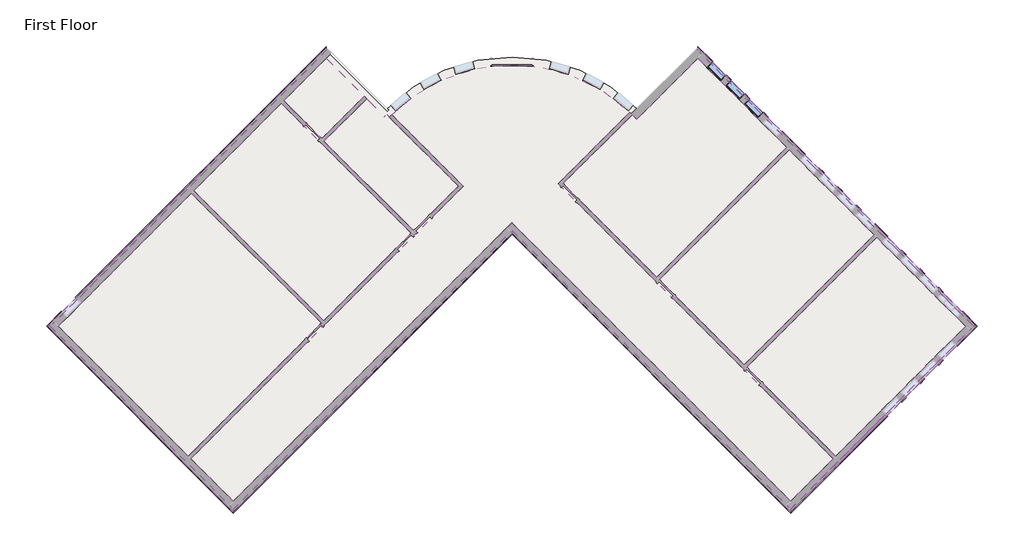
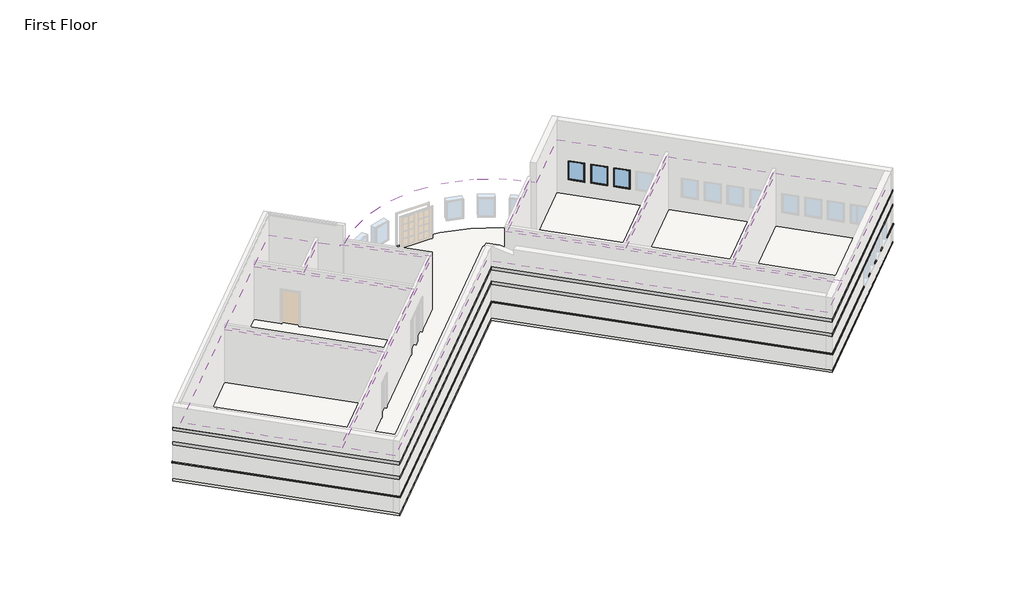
# One storey, part 3 of 3: 18 proxies, 8 coverings, 3 windows, 1 slab.
"""IFC4 building model written with IfcOpenShell, lengths in millimetres."""

from ifc_helpers import new_model, si_unit, point, frame, frame_2d, origin, place, context, project, spatial, polyline, circle_curve, trimmed, segment, composite_curve, outline, extrude, faceted_brep, transform, mapped, element, save
from components import window_15c49d37

model = new_model("IFC4")

# Units and contexts
model_context = context("Model", 3, world=origin())
ifc_project = project(units=[si_unit("LENGTHUNIT", "METRE", prefix="MILLI")], contexts=[model_context])

# Site, building, storey
site = spatial("IfcSite", under=ifc_project)
building = spatial("IfcBuilding", under=site)
storey = spatial("IfcBuildingStorey", under=building, Name="First Floor", Elevation=0.0)

# Proxies
placement = place(None, origin())
element("IfcBuildingElementProxy", 1, Name="Wall Sweeps", at=placement, inside=storey, context=model_context, shape_type="Brep", body=[
    faceted_brep([(17381.0808171, -1390.1662438, 1085.85), (17446.187674, -1325.0593869, 1085.85), (17470.8833783, -1300.3636826, 1041.4), (17470.8833783, -1300.3636826, 1016.0), (17446.187674, -1325.0593869, 1016.0), (17381.0808171, -1390.1662438, 1016.0), (17979.3903812, -1988.4758079, 1085.85), (17979.3903812, -1988.4758079, 1016.0), (18158.9955036, -1988.4758079, 1016.0), (18158.9955036, -1988.4758079, 1041.4), (18109.604095, -1988.4758079, 1085.85)], [[[0, 1, 2, 3, 4, 5]], [[6, 7, 8, 9, 10]], [[1, 0, 6, 10]], [[2, 1, 10, 9]], [[3, 2, 9, 8]], [[5, 4, 3, 8, 7]], [[0, 5, 7, 6]]]),
    faceted_brep([(16269.7741222, -278.8595488, 1085.85), (16334.880979, -213.7526919, 1085.85), (16359.5766834, -189.0569876, 1041.4), (16359.5766834, -189.0569876, 1016.0), (16334.880979, -213.7526919, 1016.0), (16269.7741222, -278.8595488, 1016.0), (16485.3002691, -494.3856957, 1085.85), (16485.3002691, -494.3856957, 1016.0), (16550.4071259, -429.2788388, 1016.0), (16575.1028303, -404.5831345, 1016.0), (16575.1028303, -404.5831345, 1041.4), (16550.4071259, -429.2788388, 1085.85)], [[[0, 1, 2, 3, 4, 5]], [[6, 7, 8, 9, 10, 11]], [[1, 0, 6, 11]], [[2, 1, 11, 10]], [[3, 2, 10, 9]], [[5, 4, 3, 9, 8, 7]], [[0, 5, 7, 6]]]),
    faceted_brep([(15407.6695345, 583.2450388, 1085.85), (15472.7763914, 648.3518957, 1085.85), (15497.4720957, 673.0476, 1041.4), (15497.4720957, 673.0476, 1016.0), (15472.7763914, 648.3518957, 1016.0), (15407.6695345, 583.2450388, 1016.0), (15623.1956814, 367.7188919, 1085.85), (15623.1956814, 367.7188919, 1016.0), (15688.3025383, 432.8257488, 1016.0), (15712.9982426, 457.5214531, 1016.0), (15712.9982426, 457.5214531, 1041.4), (15688.3025383, 432.8257488, 1085.85)], [[[0, 1, 2, 3, 4, 5]], [[6, 7, 8, 9, 10, 11]], [[1, 0, 6, 11]], [[2, 1, 11, 10]], [[3, 2, 10, 9]], [[5, 4, 3, 9, 8, 7]], [[0, 5, 7, 6]]]),
    faceted_brep([(14545.5649469, 1445.3496264, 1085.85), (14610.6718038, 1510.4564833, 1085.85), (14635.3675081, 1535.1521876, 1041.4), (14635.3675081, 1535.1521876, 1016.0), (14610.6718038, 1510.4564833, 1016.0), (14545.5649469, 1445.3496264, 1016.0), (14761.0910938, 1229.8234795, 1085.85), (14761.0910938, 1229.8234795, 1016.0), (14826.1979507, 1294.9303364, 1016.0), (14850.893655, 1319.6260407, 1016.0), (14850.893655, 1319.6260407, 1041.4), (14826.1979507, 1294.9303364, 1085.85)], [[[0, 1, 2, 3, 4, 5]], [[6, 7, 8, 9, 10, 11]], [[1, 0, 6, 11]], [[2, 1, 11, 10]], [[3, 2, 10, 9]], [[5, 4, 3, 9, 8, 7]], [[0, 5, 7, 6]]]),
    faceted_brep([(13319.7599864, 2671.154587, 1085.85), (13384.8668433, 2736.2614438, 1085.85), (13409.5625476, 2760.9571482, 1041.4), (13409.5625476, 2760.9571482, 1016.0), (13384.8668433, 2736.2614438, 1016.0), (13319.7599864, 2671.154587, 1016.0), (13898.9865062, 2091.9280671, 1085.85), (13898.9865062, 2091.9280671, 1016.0), (13964.0933631, 2157.034924, 1016.0), (13988.7890674, 2181.7306284, 1016.0), (13988.7890674, 2181.7306284, 1041.4), (13964.0933631, 2157.034924, 1085.85)], [[[0, 1, 2, 3, 4, 5]], [[6, 7, 8, 9, 10, 11]], [[1, 0, 6, 11]], [[2, 1, 11, 10]], [[3, 2, 10, 9]], [[5, 4, 3, 9, 8, 7]], [[0, 5, 7, 6]]]),
    faceted_brep([(12457.6553988, 3533.2591746, 1085.85), (12522.7622556, 3598.3660315, 1085.85), (12547.45796, 3623.0617358, 1041.4), (12547.45796, 3623.0617358, 1016.0), (12522.7622556, 3598.3660315, 1016.0), (12457.6553988, 3533.2591746, 1016.0), (12673.1815457, 3317.7330277, 1085.85), (12673.1815457, 3317.7330277, 1016.0), (12738.2884025, 3382.8398846, 1016.0), (12762.9841069, 3407.5355889, 1016.0), (12762.9841069, 3407.5355889, 1041.4), (12738.2884025, 3382.8398846, 1085.85)], [[[0, 1, 2, 3, 4, 5]], [[6, 7, 8, 9, 10, 11]], [[1, 0, 6, 11]], [[2, 1, 11, 10]], [[3, 2, 10, 9]], [[5, 4, 3, 9, 8, 7]], [[0, 5, 7, 6]]]),
    faceted_brep([(8147.1324606, 7843.7821127, 1085.85), (8212.2393175, 7908.8889696, 1085.85), (8236.9350219, 7933.5846739, 1041.4), (8236.9350219, 7933.5846739, 1016.0), (8212.2393175, 7908.8889696, 1016.0), (8147.1324606, 7843.7821127, 1016.0), (8362.6586076, 7628.2559658, 1085.85), (8362.6586076, 7628.2559658, 1016.0), (8427.7654644, 7693.3628227, 1016.0), (8452.4611688, 7718.058527, 1016.0), (8452.4611688, 7718.058527, 1041.4), (8427.7654644, 7693.3628227, 1085.85)], [[[0, 1, 2, 3, 4, 5]], [[6, 7, 8, 9, 10, 11]], [[1, 0, 6, 11]], [[2, 1, 11, 10]], [[3, 2, 10, 9]], [[5, 4, 3, 9, 8, 7]], [[0, 5, 7, 6]]]),
    faceted_brep([(9009.2370483, 6981.6775251, 1085.85), (9074.3439051, 7046.7843819, 1085.85), (9099.0396095, 7071.4800863, 1041.4), (9099.0396095, 7071.4800863, 1016.0), (9074.3439051, 7046.7843819, 1016.0), (9009.2370483, 6981.6775251, 1016.0), (10086.8677828, 5904.0467905, 1085.85), (10086.8677828, 5904.0467905, 1016.0), (10151.9746397, 5969.1536474, 1016.0), (10176.670344, 5993.8493518, 1016.0), (10176.670344, 5993.8493518, 1041.4), (10151.9746397, 5969.1536474, 1085.85)], [[[0, 1, 2, 3, 4, 5]], [[6, 7, 8, 9, 10, 11]], [[1, 0, 6, 11]], [[2, 1, 11, 10]], [[3, 2, 10, 9]], [[5, 4, 3, 9, 8, 7]], [[0, 5, 7, 6]]]),
    faceted_brep([(10733.4462235, 5257.4683498, 1085.85), (10798.5530804, 5322.5752067, 1085.85), (10823.2487847, 5347.270911, 1041.4), (10823.2487847, 5347.270911, 1016.0), (10798.5530804, 5322.5752067, 1016.0), (10733.4462235, 5257.4683498, 1016.0), (10948.9723704, 5041.9422029, 1085.85), (10948.9723704, 5041.9422029, 1016.0), (11014.0792273, 5107.0490598, 1016.0), (11038.7749316, 5131.7447641, 1016.0), (11038.7749316, 5131.7447641, 1041.4), (11014.0792273, 5107.0490598, 1085.85)], [[[0, 1, 2, 3, 4, 5]], [[6, 7, 8, 9, 10, 11]], [[1, 0, 6, 11]], [[2, 1, 11, 10]], [[3, 2, 10, 9]], [[5, 4, 3, 9, 8, 7]], [[0, 5, 7, 6]]]),
    faceted_brep([(11595.5508111, 4395.3637622, 1085.85), (11660.657668, 4460.4706191, 1085.85), (11685.3533723, 4485.1663234, 1041.4), (11685.3533723, 4485.1663234, 1016.0), (11660.657668, 4460.4706191, 1016.0), (11595.5508111, 4395.3637622, 1016.0), (11811.076958, 4179.8376153, 1085.85), (11811.076958, 4179.8376153, 1016.0), (11876.1838149, 4244.9444722, 1016.0), (11900.8795193, 4269.6401765, 1016.0), (11900.8795193, 4269.6401765, 1041.4), (11876.1838149, 4244.9444722, 1085.85)], [[[0, 1, 2, 3, 4, 5]], [[6, 7, 8, 9, 10, 11]], [[1, 0, 6, 11]], [[2, 1, 11, 10]], [[3, 2, 10, 9]], [[5, 4, 3, 9, 8, 7]], [[0, 5, 7, 6]]]),
    faceted_brep([(5178.0352806, 10812.8792927, 1085.85), (5178.0352806, 10943.0930065, 1085.85), (5178.0352806, 10992.4844151, 1041.4), (5178.0352806, 10992.4844151, 1016.0), (5178.0352806, 10812.8792927, 1016.0), (5776.3448447, 10214.5697287, 1085.85), (5776.3448447, 10214.5697287, 1016.0), (5841.4517016, 10279.6765855, 1016.0), (5866.1474059, 10304.3722899, 1016.0), (5866.1474059, 10304.3722899, 1041.4), (5841.4517016, 10279.6765855, 1085.85), (5362.1305311, 10628.7840422, 1085.85), (5362.1305311, 10628.7840422, 1016.0)], [[[0, 1, 2, 3, 4]], [[5, 6, 7, 8, 9, 10]], [[1, 0, 11, 5, 10]], [[2, 1, 10, 9]], [[3, 2, 9, 8]], [[4, 3, 8, 7, 6, 12]], [[0, 4, 12, 6, 5, 11]]]),
    faceted_brep([(6422.9232854, 9567.9912879, 1085.85), (6488.0301423, 9633.0981448, 1085.85), (6512.7258466, 9657.7938491, 1041.4), (6512.7258466, 9657.7938491, 1016.0), (6488.0301423, 9633.0981448, 1016.0), (6422.9232854, 9567.9912879, 1016.0), (6638.4494323, 9352.465141, 1085.85), (6638.4494323, 9352.465141, 1016.0), (6703.5562892, 9417.5719979, 1016.0), (6728.2519935, 9442.2677022, 1016.0), (6728.2519935, 9442.2677022, 1041.4), (6703.5562892, 9417.5719979, 1085.85)], [[[0, 1, 2, 3, 4, 5]], [[6, 7, 8, 9, 10, 11]], [[1, 0, 6, 11]], [[2, 1, 11, 10]], [[3, 2, 10, 9]], [[5, 4, 3, 9, 8, 7]], [[0, 5, 7, 6]]]),
    faceted_brep([(7285.027873, 8705.8867003, 1085.85), (7350.1347299, 8770.9935572, 1085.85), (7374.8304342, 8795.6892615, 1041.4), (7374.8304342, 8795.6892615, 1016.0), (7350.1347299, 8770.9935572, 1016.0), (7285.027873, 8705.8867003, 1016.0), (7500.5540199, 8490.3605534, 1085.85), (7500.5540199, 8490.3605534, 1016.0), (7565.6608768, 8555.4674103, 1016.0), (7590.3565811, 8580.1631146, 1016.0), (7590.3565811, 8580.1631146, 1041.4), (7565.6608768, 8555.4674103, 1085.85)], [[[0, 1, 2, 3, 4, 5]], [[6, 7, 8, 9, 10, 11]], [[1, 0, 6, 11]], [[2, 1, 11, 10]], [[3, 2, 10, 9]], [[5, 4, 3, 9, 8, 7]], [[0, 5, 7, 6]]]),
])
element("IfcBuildingElementProxy", 2, Name="Wall Sweeps", at=placement, inside=storey, context=model_context, shape_type="Brep", body=[
    faceted_brep([(5178.0352806, 10943.0930065, 2336.8), (5178.0352806, 10943.0930065, 2133.6), (5178.0352806, 10812.8792927, 2133.6), (5178.0352806, 10812.8792927, 2336.8), (18109.604095, -1988.4758079, 2336.8), (17979.3903812, -1988.4758079, 2336.8), (17979.3903812, -1988.4758079, 2133.6), (18109.604095, -1988.4758079, 2133.6), (5427.237388, 10693.8908991, 2336.8), (17446.187674, -1325.0593869, 2133.6), (16550.4071259, -429.2788388, 2133.6), (16334.880979, -213.7526919, 2133.6), (15688.3025383, 432.8257488, 2133.6), (15472.7763914, 648.3518957, 2133.6), (14826.1979507, 1294.9303364, 2133.6), (14610.6718038, 1510.4564833, 2133.6), (13964.0933631, 2157.034924, 2133.6), (13384.8668433, 2736.2614438, 2133.6), (12738.2884025, 3382.8398846, 2133.6), (12522.7622556, 3598.3660315, 2133.6), (11876.1838149, 4244.9444722, 2133.6), (11660.657668, 4460.4706191, 2133.6), (11014.0792273, 5107.0490598, 2133.6), (10798.5530804, 5322.5752067, 2133.6), (10151.9746397, 5969.1536474, 2133.6), (9074.3439051, 7046.7843819, 2133.6), (8427.7654644, 7693.3628227, 2133.6), (8212.2393175, 7908.8889696, 2133.6), (7565.6608768, 8555.4674103, 2133.6), (7350.1347299, 8770.9935572, 2133.6), (6703.5562892, 9417.5719979, 2133.6), (6488.0301423, 9633.0981448, 2133.6), (5841.4517016, 10279.6765855, 2133.6), (5427.237388, 10693.8908991, 2133.6), (17381.0808171, -1390.1662438, 2133.6), (16485.3002691, -494.3856957, 2133.6), (16269.7741222, -278.8595488, 2133.6), (15623.1956814, 367.7188919, 2133.6), (15407.6695345, 583.2450388, 2133.6), (14761.0910938, 1229.8234795, 2133.6), (14545.5649469, 1445.3496264, 2133.6), (13898.9865062, 2091.9280671, 2133.6), (13319.7599864, 2671.154587, 2133.6), (12673.1815457, 3317.7330277, 2133.6), (12457.6553988, 3533.2591746, 2133.6), (11811.076958, 4179.8376153, 2133.6), (11595.5508111, 4395.3637622, 2133.6), (10948.9723704, 5041.9422029, 2133.6), (10733.4462235, 5257.4683498, 2133.6), (10086.8677828, 5904.0467905, 2133.6), (9009.2370483, 6981.6775251, 2133.6), (8362.6586076, 7628.2559658, 2133.6), (8147.1324606, 7843.7821127, 2133.6), (7500.5540199, 8490.3605534, 2133.6), (7285.027873, 8705.8867003, 2133.6), (6638.4494323, 9352.465141, 2133.6), (6422.9232854, 9567.9912879, 2133.6), (5776.3448447, 10214.5697287, 2133.6), (5362.1305311, 10628.7840422, 2133.6), (5362.1305311, 10628.7840422, 2336.8)], [[[0, 1, 2, 3]], [[4, 5, 6, 7]], [[1, 0, 8, 4, 7, 9, 10, 11, 12, 13, 14, 15, 16, 17, 18, 19, 20, 21, 22, 23, 24, 25, 26, 27, 28, 29, 30, 31, 32, 33]], [[2, 1, 33, 32, 31, 30, 29, 28, 27, 26, 25, 24, 23, 22, 21, 20, 19, 18, 17, 16, 15, 14, 13, 12, 11, 10, 9, 7, 6, 34, 35, 36, 37, 38, 39, 40, 41, 42, 43, 44, 45, 46, 47, 48, 49, 50, 51, 52, 53, 54, 55, 56, 57, 58]], [[3, 2, 58, 57, 56, 55, 54, 53, 52, 51, 50, 49, 48, 47, 46, 45, 44, 43, 42, 41, 40, 39, 38, 37, 36, 35, 34, 6, 5, 59]], [[0, 3, 59, 5, 4, 8]]]),
])
element("IfcBuildingElementProxy", 3, Name="Wall Sweeps", at=placement, inside=storey, context=model_context, shape_type="Brep", body=[
    faceted_brep([(5178.0352806, 10943.0930065, 3251.2), (5178.0352806, 10943.0930065, 3048.0), (5178.0352806, 10812.8792927, 3048.0), (5178.0352806, 10812.8792927, 3251.2), (18109.604095, -1988.4758079, 3251.2), (17979.3903812, -1988.4758079, 3251.2), (17979.3903812, -1988.4758079, 3048.0), (18109.604095, -1988.4758079, 3048.0), (5427.237388, 10693.8908991, 3251.2), (5427.237388, 10693.8908991, 3048.0), (5362.1305311, 10628.7840422, 3048.0), (5362.1305311, 10628.7840422, 3251.2)], [[[0, 1, 2, 3]], [[4, 5, 6, 7]], [[1, 0, 8, 4, 7, 9]], [[2, 1, 9, 7, 6, 10]], [[3, 2, 10, 6, 5, 11]], [[0, 3, 11, 5, 4, 8]]]),
])
element("IfcBuildingElementProxy", 4, Name="Wall Sweeps", at=placement, inside=storey, context=model_context, shape_type="Brep", body=[
    faceted_brep([(13898.9865062, -6068.8796829, 1085.85), (13964.0933631, -6133.9865398, 1085.85), (13988.7890674, -6158.6822441, 1041.4), (13988.7890674, -6158.6822441, 1016.0), (13964.0933631, -6133.9865398, 1016.0), (13898.9865062, -6068.8796829, 1016.0), (9488.5582187, -10479.3079703, 1085.85), (9488.5582187, -10479.3079703, 1016.0), (9488.5582187, -10658.9130928, 1016.0), (9488.5582187, -10658.9130928, 1041.4), (9488.5582187, -10609.5216841, 1085.85)], [[[0, 1, 2, 3, 4, 5]], [[6, 7, 8, 9, 10]], [[1, 0, 6, 10]], [[2, 1, 10, 9]], [[3, 2, 9, 8]], [[5, 4, 3, 8, 7]], [[0, 5, 7, 6]]]),
    faceted_brep([(17979.3903812, -1988.4758079, 1085.85), (18109.604095, -1988.4758079, 1085.85), (18158.9955036, -1988.4758079, 1041.4), (18158.9955036, -1988.4758079, 1016.0), (17979.3903812, -1988.4758079, 1016.0), (17131.8787098, -2835.9874793, 1085.85), (17131.8787098, -2835.9874793, 1016.0), (17196.9855667, -2901.0943362, 1016.0), (17221.681271, -2925.7900405, 1016.0), (17221.681271, -2925.7900405, 1041.4), (17196.9855667, -2901.0943362, 1085.85), (17795.2951307, -2172.5710583, 1085.85), (17795.2951307, -2172.5710583, 1016.0)], [[[0, 1, 2, 3, 4]], [[5, 6, 7, 8, 9, 10]], [[1, 0, 11, 5, 10]], [[2, 1, 10, 9]], [[3, 2, 9, 8]], [[4, 3, 8, 7, 6, 12]], [[0, 4, 12, 6, 5, 11]]]),
    faceted_brep([(16485.3002691, -3482.56592, 1085.85), (16550.4071259, -3547.6727769, 1085.85), (16575.1028303, -3572.3684812, 1041.4), (16575.1028303, -3572.3684812, 1016.0), (16550.4071259, -3547.6727769, 1016.0), (16485.3002691, -3482.56592, 1016.0), (16269.7741222, -3698.0920669, 1085.85), (16269.7741222, -3698.0920669, 1016.0), (16334.880979, -3763.1989238, 1016.0), (16359.5766834, -3787.8946281, 1016.0), (16359.5766834, -3787.8946281, 1041.4), (16334.880979, -3763.1989238, 1085.85)], [[[0, 1, 2, 3, 4, 5]], [[6, 7, 8, 9, 10, 11]], [[1, 0, 6, 11]], [[2, 1, 11, 10]], [[3, 2, 10, 9]], [[5, 4, 3, 9, 8, 7]], [[0, 5, 7, 6]]]),
    faceted_brep([(15623.1956814, -4344.6705076, 1085.85), (15688.3025383, -4409.7773645, 1085.85), (15712.9982426, -4434.4730688, 1041.4), (15712.9982426, -4434.4730688, 1016.0), (15688.3025383, -4409.7773645, 1016.0), (15623.1956814, -4344.6705076, 1016.0), (15407.6695345, -4560.1966545, 1085.85), (15407.6695345, -4560.1966545, 1016.0), (15472.7763914, -4625.3035114, 1016.0), (15497.4720957, -4649.9992157, 1016.0), (15497.4720957, -4649.9992157, 1041.4), (15472.7763914, -4625.3035114, 1085.85)], [[[0, 1, 2, 3, 4, 5]], [[6, 7, 8, 9, 10, 11]], [[1, 0, 6, 11]], [[2, 1, 11, 10]], [[3, 2, 10, 9]], [[5, 4, 3, 9, 8, 7]], [[0, 5, 7, 6]]]),
    faceted_brep([(14761.0910938, -5206.7750953, 1085.85), (14826.1979507, -5271.8819521, 1085.85), (14850.893655, -5296.5776565, 1041.4), (14850.893655, -5296.5776565, 1016.0), (14826.1979507, -5271.8819521, 1016.0), (14761.0910938, -5206.7750953, 1016.0), (14545.5649469, -5422.3012422, 1085.85), (14545.5649469, -5422.3012422, 1016.0), (14610.6718038, -5487.408099, 1016.0), (14635.3675081, -5512.1038034, 1016.0), (14635.3675081, -5512.1038034, 1041.4), (14610.6718038, -5487.408099, 1085.85)], [[[0, 1, 2, 3, 4, 5]], [[6, 7, 8, 9, 10, 11]], [[1, 0, 6, 11]], [[2, 1, 11, 10]], [[3, 2, 10, 9]], [[5, 4, 3, 9, 8, 7]], [[0, 5, 7, 6]]]),
])
element("IfcBuildingElementProxy", 5, Name="Wall Sweeps", at=placement, inside=storey, context=model_context, shape_type="Brep", body=[
    faceted_brep([(18109.604095, -1988.4758079, 2336.8), (18109.604095, -1988.4758079, 2133.6), (17979.3903812, -1988.4758079, 2133.6), (17979.3903812, -1988.4758079, 2336.8), (9488.5582187, -10609.5216841, 2336.8), (9488.5582187, -10479.3079703, 2336.8), (9488.5582187, -10479.3079703, 2133.6), (9488.5582187, -10609.5216841, 2133.6), (17860.4019876, -2237.6779152, 2336.8), (13964.0933631, -6133.9865398, 2133.6), (14610.6718038, -5487.408099, 2133.6), (14826.1979507, -5271.8819521, 2133.6), (15472.7763914, -4625.3035114, 2133.6), (15688.3025383, -4409.7773645, 2133.6), (16334.880979, -3763.1989238, 2133.6), (16550.4071259, -3547.6727769, 2133.6), (17196.9855667, -2901.0943362, 2133.6), (17860.4019876, -2237.6779152, 2133.6), (13898.9865062, -6068.8796829, 2133.6), (14545.5649469, -5422.3012422, 2133.6), (14761.0910938, -5206.7750953, 2133.6), (15407.6695345, -4560.1966545, 2133.6), (15623.1956814, -4344.6705076, 2133.6), (16269.7741222, -3698.0920669, 2133.6), (16485.3002691, -3482.56592, 2133.6), (17131.8787098, -2835.9874793, 2133.6), (17795.2951307, -2172.5710583, 2133.6), (17795.2951307, -2172.5710583, 2336.8)], [[[0, 1, 2, 3]], [[4, 5, 6, 7]], [[1, 0, 8, 4, 7, 9, 10, 11, 12, 13, 14, 15, 16, 17]], [[2, 1, 17, 16, 15, 14, 13, 12, 11, 10, 9, 7, 6, 18, 19, 20, 21, 22, 23, 24, 25, 26]], [[3, 2, 26, 25, 24, 23, 22, 21, 20, 19, 18, 6, 5, 27]], [[0, 3, 27, 5, 4, 8]]]),
])
element("IfcBuildingElementProxy", 6, Name="Wall Sweeps", at=placement, inside=storey, context=model_context, shape_type="Brep", body=[
    faceted_brep([(18109.604095, -1988.4758079, 3251.2), (18109.604095, -1988.4758079, 3048.0), (17979.3903812, -1988.4758079, 3048.0), (17979.3903812, -1988.4758079, 3251.2), (9488.5582187, -10609.5216841, 3251.2), (9488.5582187, -10479.3079703, 3251.2), (9488.5582187, -10479.3079703, 3048.0), (9488.5582187, -10609.5216841, 3048.0), (17860.4019876, -2237.6779152, 3251.2), (17860.4019876, -2237.6779152, 3048.0), (17795.2951307, -2172.5710583, 3048.0), (17795.2951307, -2172.5710583, 3251.2)], [[[0, 1, 2, 3]], [[4, 5, 6, 7]], [[1, 0, 8, 4, 7, 9]], [[2, 1, 9, 7, 6, 10]], [[3, 2, 10, 6, 5, 11]], [[0, 3, 11, 5, 4, 8]]]),
])
element("IfcBuildingElementProxy", 7, Name="Wall Sweeps", at=placement, inside=storey, context=model_context, shape_type="Brep", body=[
    faceted_brep([(9488.5582187, -10479.3079703, 1085.85), (9488.5582187, -10609.5216841, 1085.85), (9488.5582187, -10658.9130928, 1041.4), (9488.5582187, -10658.9130928, 1016.0), (9488.5582187, -10479.3079703, 1016.0), (-3443.0105956, 2452.260844, 1085.85), (-3443.0105956, 2452.260844, 1016.0), (-3443.0105956, 2272.6557216, 1016.0), (-3443.0105956, 2272.6557216, 1041.4), (-3443.0105956, 2322.0471303, 1085.85), (9304.4629682, -10295.2127199, 1085.85), (9304.4629682, -10295.2127199, 1016.0)], [[[0, 1, 2, 3, 4]], [[5, 6, 7, 8, 9]], [[1, 0, 10, 5, 9]], [[2, 1, 9, 8]], [[3, 2, 8, 7]], [[4, 3, 7, 6, 11]], [[0, 4, 11, 6, 5, 10]]]),
])
element("IfcBuildingElementProxy", 8, Name="Wall Sweeps", at=placement, inside=storey, context=model_context, shape_type="Brep", body=[
    faceted_brep([(9488.5582187, -10609.5216841, 2336.8), (9488.5582187, -10609.5216841, 2133.6), (9488.5582187, -10479.3079703, 2133.6), (9488.5582187, -10479.3079703, 2336.8), (-3443.0105956, 2322.0471303, 2336.8), (-3443.0105956, 2452.260844, 2336.8), (-3443.0105956, 2452.260844, 2133.6), (-3443.0105956, 2322.0471303, 2133.6), (9239.3561114, -10360.3195767, 2336.8), (9239.3561114, -10360.3195767, 2133.6), (9304.4629682, -10295.2127199, 2133.6), (9304.4629682, -10295.2127199, 2336.8)], [[[0, 1, 2, 3]], [[4, 5, 6, 7]], [[1, 0, 8, 4, 7, 9]], [[2, 1, 9, 7, 6, 10]], [[3, 2, 10, 6, 5, 11]], [[0, 3, 11, 5, 4, 8]]]),
])
element("IfcBuildingElementProxy", 9, Name="Wall Sweeps", at=placement, inside=storey, context=model_context, shape_type="Brep", body=[
    faceted_brep([(9488.5582187, -10609.5216841, 3251.2), (9488.5582187, -10609.5216841, 3048.0), (9488.5582187, -10479.3079703, 3048.0), (9488.5582187, -10479.3079703, 3251.2), (-3443.0105956, 2322.0471303, 3251.2), (-3443.0105956, 2452.260844, 3251.2), (-3443.0105956, 2452.260844, 3048.0), (-3443.0105956, 2322.0471303, 3048.0), (9239.3561114, -10360.3195767, 3251.2), (9239.3561114, -10360.3195767, 3048.0), (9304.4629682, -10295.2127199, 3048.0), (9304.4629682, -10295.2127199, 3251.2)], [[[0, 1, 2, 3]], [[4, 5, 6, 7]], [[1, 0, 8, 4, 7, 9]], [[2, 1, 9, 7, 6, 10]], [[3, 2, 10, 6, 5, 11]], [[0, 3, 11, 5, 4, 8]]]),
])
element("IfcBuildingElementProxy", 10, Name="Wall Sweeps", at=placement, inside=storey, context=model_context, shape_type="Brep", body=[
    faceted_brep([(-3443.0105956, 2452.260844, 1085.85), (-3443.0105956, 2322.0471303, 1085.85), (-3443.0105956, 2272.6557216, 1041.4), (-3443.0105956, 2272.6557216, 1016.0), (-3443.0105956, 2452.260844, 1016.0), (-16374.5794099, -10479.3079703, 1085.85), (-16374.5794099, -10479.3079703, 1016.0), (-16374.5794099, -10658.9130928, 1016.0), (-16374.5794099, -10658.9130928, 1041.4), (-16374.5794099, -10609.5216841, 1085.85), (-3508.1174525, 2387.1539871, 1085.85), (-3508.1174525, 2387.1539871, 1016.0)], [[[0, 1, 2, 3, 4]], [[5, 6, 7, 8, 9]], [[1, 0, 10, 5, 9]], [[2, 1, 9, 8]], [[3, 2, 8, 7]], [[4, 3, 7, 6, 11]], [[0, 4, 11, 6, 5, 10]]]),
])
element("IfcBuildingElementProxy", 11, Name="Wall Sweeps", at=placement, inside=storey, context=model_context, shape_type="Brep", body=[
    faceted_brep([(-3443.0105956, 2322.0471303, 2336.8), (-3443.0105956, 2322.0471303, 2133.6), (-3443.0105956, 2452.260844, 2133.6), (-3443.0105956, 2452.260844, 2336.8), (-16374.5794099, -10609.5216841, 2336.8), (-16374.5794099, -10479.3079703, 2336.8), (-16374.5794099, -10479.3079703, 2133.6), (-16374.5794099, -10609.5216841, 2133.6), (-3508.1174525, 2387.1539871, 2133.6), (-3508.1174525, 2387.1539871, 2336.8)], [[[0, 1, 2, 3]], [[4, 5, 6, 7]], [[1, 0, 4, 7]], [[2, 1, 7, 6, 8]], [[3, 2, 8, 6, 5, 9]], [[0, 3, 9, 5, 4]]]),
])
element("IfcBuildingElementProxy", 12, Name="Wall Sweeps", at=placement, inside=storey, context=model_context, shape_type="Brep", body=[
    faceted_brep([(-3443.0105956, 2322.0471303, 3251.2), (-3443.0105956, 2322.0471303, 3048.0), (-3443.0105956, 2452.260844, 3048.0), (-3443.0105956, 2452.260844, 3251.2), (-16374.5794099, -10609.5216841, 3251.2), (-16374.5794099, -10479.3079703, 3251.2), (-16374.5794099, -10479.3079703, 3048.0), (-16374.5794099, -10609.5216841, 3048.0), (-3508.1174525, 2387.1539871, 3048.0), (-3508.1174525, 2387.1539871, 3251.2)], [[[0, 1, 2, 3]], [[4, 5, 6, 7]], [[1, 0, 4, 7]], [[2, 1, 7, 6, 8]], [[3, 2, 8, 6, 5, 9]], [[0, 3, 9, 5, 4]]]),
])
element("IfcBuildingElementProxy", 13, Name="Wall Sweeps", at=placement, inside=storey, context=model_context, shape_type="Brep", body=[
    faceted_brep([(-16374.5794099, -10479.3079703, 1085.85), (-16374.5794099, -10609.5216841, 1085.85), (-16374.5794099, -10658.9130928, 1041.4), (-16374.5794099, -10658.9130928, 1016.0), (-16374.5794099, -10479.3079703, 1016.0), (-24865.4115724, -1988.4758079, 1085.85), (-24865.4115724, -1988.4758079, 1016.0), (-25045.0166948, -1988.4758079, 1016.0), (-25045.0166948, -1988.4758079, 1041.4), (-24995.6252862, -1988.4758079, 1085.85), (-16558.6746604, -10295.2127199, 1085.85), (-16558.6746604, -10295.2127199, 1016.0)], [[[0, 1, 2, 3, 4]], [[5, 6, 7, 8, 9]], [[1, 0, 10, 5, 9]], [[2, 1, 9, 8]], [[3, 2, 8, 7]], [[4, 3, 7, 6, 11]], [[0, 4, 11, 6, 5, 10]]]),
])
element("IfcBuildingElementProxy", 14, Name="Wall Sweeps", at=placement, inside=storey, context=model_context, shape_type="Brep", body=[
    faceted_brep([(-16374.5794099, -10609.5216841, 2336.8), (-16374.5794099, -10609.5216841, 2133.6), (-16374.5794099, -10479.3079703, 2133.6), (-16374.5794099, -10479.3079703, 2336.8), (-24995.6252862, -1988.4758079, 2336.8), (-24865.4115724, -1988.4758079, 2336.8), (-24865.4115724, -1988.4758079, 2133.6), (-24995.6252862, -1988.4758079, 2133.6), (-16623.7815173, -10360.3195767, 2336.8), (-16623.7815173, -10360.3195767, 2133.6), (-16558.6746604, -10295.2127199, 2133.6), (-16558.6746604, -10295.2127199, 2336.8)], [[[0, 1, 2, 3]], [[4, 5, 6, 7]], [[1, 0, 8, 4, 7, 9]], [[2, 1, 9, 7, 6, 10]], [[3, 2, 10, 6, 5, 11]], [[0, 3, 11, 5, 4, 8]]]),
])
element("IfcBuildingElementProxy", 15, Name="Wall Sweeps", at=placement, inside=storey, context=model_context, shape_type="Brep", body=[
    faceted_brep([(-16374.5794099, -10609.5216841, 3251.2), (-16374.5794099, -10609.5216841, 3048.0), (-16374.5794099, -10479.3079703, 3048.0), (-16374.5794099, -10479.3079703, 3251.2), (-24995.6252862, -1988.4758079, 3251.2), (-24865.4115724, -1988.4758079, 3251.2), (-24865.4115724, -1988.4758079, 3048.0), (-24995.6252862, -1988.4758079, 3048.0), (-16623.7815173, -10360.3195767, 3251.2), (-16623.7815173, -10360.3195767, 3048.0), (-16558.6746604, -10295.2127199, 3048.0), (-16558.6746604, -10295.2127199, 3251.2)], [[[0, 1, 2, 3]], [[4, 5, 6, 7]], [[1, 0, 8, 4, 7, 9]], [[2, 1, 9, 7, 6, 10]], [[3, 2, 10, 6, 5, 11]], [[0, 3, 11, 5, 4, 8]]]),
])
element("IfcBuildingElementProxy", 16, Name="Wall Sweeps", at=placement, inside=storey, context=model_context, shape_type="Brep", body=[
    faceted_brep([(-23620.5235676, -743.5878031, 1085.85), (-23685.6304245, -678.4809462, 1085.85), (-23710.3261288, -653.7852419, 1041.4), (-23710.3261288, -653.7852419, 1016.0), (-23685.6304245, -678.4809462, 1016.0), (-23620.5235676, -743.5878031, 1016.0), (-12064.0564718, 10812.8792927, 1085.85), (-12064.0564718, 10812.8792927, 1016.0), (-12064.0564718, 10992.4844151, 1016.0), (-12064.0564718, 10992.4844151, 1041.4), (-12064.0564718, 10943.0930065, 1085.85)], [[[0, 1, 2, 3, 4, 5]], [[6, 7, 8, 9, 10]], [[1, 0, 6, 10]], [[2, 1, 10, 9]], [[3, 2, 9, 8]], [[5, 4, 3, 8, 7]], [[0, 5, 7, 6]]]),
    faceted_brep([(-24865.4115724, -1988.4758079, 1085.85), (-24995.6252862, -1988.4758079, 1085.85), (-25045.0166948, -1988.4758079, 1041.4), (-25045.0166948, -1988.4758079, 1016.0), (-24865.4115724, -1988.4758079, 1016.0), (-24267.1020084, -1390.1662438, 1085.85), (-24267.1020084, -1390.1662438, 1016.0), (-24332.2088652, -1325.0593869, 1016.0), (-24356.9045696, -1300.3636826, 1016.0), (-24356.9045696, -1300.3636826, 1041.4), (-24332.2088652, -1325.0593869, 1085.85), (-24681.3163219, -1804.3805574, 1085.85), (-24681.3163219, -1804.3805574, 1016.0)], [[[0, 1, 2, 3, 4]], [[5, 6, 7, 8, 9, 10]], [[1, 0, 11, 5, 10]], [[2, 1, 10, 9]], [[3, 2, 9, 8]], [[4, 3, 8, 7, 6, 12]], [[0, 4, 12, 6, 5, 11]]]),
])
element("IfcBuildingElementProxy", 17, Name="Wall Sweeps", at=placement, inside=storey, context=model_context, shape_type="Brep", body=[
    faceted_brep([(-24995.6252862, -1988.4758079, 2336.8), (-24995.6252862, -1988.4758079, 2133.6), (-24865.4115724, -1988.4758079, 2133.6), (-24865.4115724, -1988.4758079, 2336.8), (-12064.0564718, 10943.0930065, 2336.8), (-12064.0564718, 10812.8792927, 2336.8), (-12064.0564718, 10812.8792927, 2133.6), (-12064.0564718, 10943.0930065, 2133.6), (-24746.4231788, -1739.2737005, 2336.8), (-23685.6304245, -678.4809462, 2133.6), (-24332.2088652, -1325.0593869, 2133.6), (-24746.4231788, -1739.2737005, 2133.6), (-23620.5235676, -743.5878031, 2133.6), (-24267.1020084, -1390.1662438, 2133.6), (-24681.3163219, -1804.3805574, 2133.6), (-24681.3163219, -1804.3805574, 2336.8)], [[[0, 1, 2, 3]], [[4, 5, 6, 7]], [[1, 0, 8, 4, 7, 9, 10, 11]], [[2, 1, 11, 10, 9, 7, 6, 12, 13, 14]], [[3, 2, 14, 13, 12, 6, 5, 15]], [[0, 3, 15, 5, 4, 8]]]),
])
element("IfcBuildingElementProxy", 18, Name="Wall Sweeps", at=placement, inside=storey, context=model_context, shape_type="Brep", body=[
    faceted_brep([(-24995.6252862, -1988.4758079, 3251.2), (-24995.6252862, -1988.4758079, 3048.0), (-24865.4115724, -1988.4758079, 3048.0), (-24865.4115724, -1988.4758079, 3251.2), (-12064.0564718, 10943.0930065, 3251.2), (-12064.0564718, 10812.8792927, 3251.2), (-12064.0564718, 10812.8792927, 3048.0), (-12064.0564718, 10943.0930065, 3048.0), (-24746.4231788, -1739.2737005, 3251.2), (-24746.4231788, -1739.2737005, 3048.0), (-24681.3163219, -1804.3805574, 3048.0), (-24681.3163219, -1804.3805574, 3251.2)], [[[0, 1, 2, 3]], [[4, 5, 6, 7]], [[1, 0, 8, 4, 7, 9]], [[2, 1, 9, 7, 6, 10]], [[3, 2, 10, 6, 5, 11]], [[0, 3, 11, 5, 4, 8]]]),
])

# Coverings
element("IfcCovering", 19, ObjectType="2' x 2' ACT System", at=placement, inside=storey, context=model_context, shape_type="SweptSolid", body=[
    extrude(outline(polyline([(-12281.8276828, -1847.036774), (-18460.2438941, -8025.4529853), (-24497.2210715, -1988.4758079), (-18318.8048602, 4189.9404034), (-12281.8276828, -1847.036774)])), frame((0.0, 0.0, 3352.8), z_axis=(0.0, 0.0, 1.0), x_axis=(1.0, 0.0, 0.0)), (0.0, 0.0, 1.0), 57.15),
])
element("IfcCovering", 20, ObjectType="2' x 2' ACT System", at=placement, inside=storey, context=model_context, shape_type="SweptSolid", body=[
    extrude(outline(polyline([(-18208.7967227, 4299.9485409), (-14149.720956, 8359.0243076), (-8112.7437786, 2322.0471303), (-12171.8195453, -1737.0286365), (-18208.7967227, 4299.9485409)])), frame((0.0, 0.0, 3352.8), z_axis=(0.0, 0.0, 1.0), x_axis=(1.0, 0.0, 0.0)), (0.0, 0.0, 1.0), 57.15),
])
element("IfcCovering", 21, ObjectType="2' x 2' ACT System", at=placement, inside=storey, context=model_context, shape_type="SweptSolid", body=[
    extrude(outline(polyline([(-14039.7128185, 8469.0324451), (-12064.0564718, 10444.6887918), (-10303.9262721, 8684.558592), (-12279.5826187, 6708.9022454), (-14039.7128185, 8469.0324451)])), frame((0.0, 0.0, 3352.8), z_axis=(0.0, 0.0, 1.0), x_axis=(1.0, 0.0, 0.0)), (0.0, 0.0, 1.0), 57.15),
])
element("IfcCovering", 22, ObjectType="2' x 2' ACT System", at=placement, inside=storey, context=model_context, shape_type="SweptSolid", body=[
    extrude(outline(polyline([(-10193.9181346, 8574.5504545), (-9361.2454813, 7741.8778012), (-9257.9725359, 7845.1507466), (-5923.8063491, 4510.9845598), (-8002.7356411, 2432.0552677), (-12169.5744813, 6598.8941079), (-10193.9181346, 8574.5504545)])), frame((0.0, 0.0, 3352.8), z_axis=(0.0, 0.0, 1.0), x_axis=(1.0, 0.0, 0.0)), (0.0, 0.0, 1.0), 57.15),
])
element("IfcCovering", 23, ObjectType="2' x 2' ACT System", at=placement, inside=storey, context=model_context, shape_type="SweptSolid", body=[
    extrude(outline(composite_curve([segment(polyline([(-1297.8519147, 4626.6053573), (11464.2145654, -8135.4611227), (9488.5582187, -10111.1174694), (-3443.0105956, 2820.451345), (-16374.5794099, -10111.1174694), (-18350.2357566, -8135.4611227), (-5703.7900741, 4510.9845598), (-9024.2284636, 7831.4229492)]), True, "CONTINUOUS"), segment(trimmed(circle_curve(frame_2d((-3443.0105956, 2272.6557216)), 7877.175), [point((-9024.2284636, 7831.4229492))], [point((2021.619387, 7946.076659))], False, "CARTESIAN"), True, "CONTINUOUS"), segment(polyline([(2021.619387, 7946.076659), (-1297.8519147, 4626.6053573)]), True, "CONTINUOUS")], self_intersect=False)), frame((0.0, 0.0, 3352.8), z_axis=(0.0, 0.0, 1.0), x_axis=(1.0, 0.0, 0.0)), (0.0, 0.0, 1.0), 57.15),
])
element("IfcCovering", 24, ObjectType="2' x 2' ACT System", at=placement, inside=storey, context=model_context, shape_type="SweptSolid", body=[
    extrude(outline(composite_curve([segment(polyline([(2346.973313, 7613.6268242), (5178.0352806, 10444.6887918), (9308.9530963, 6313.7709761), (3271.9759189, 276.7937987), (-1077.8356397, 4626.6053573), (2132.6030957, 7837.0440928)]), True, "CONTINUOUS"), segment(trimmed(circle_curve(frame_2d((-3443.0105956, 2272.6557216)), 7877.175), [point((2132.6030957, 7837.0440928))], [point((2346.973313, 7613.6268242))], False, "CARTESIAN"), True, "CONTINUOUS")], self_intersect=False)), frame((0.0, 0.0, 3352.8), z_axis=(0.0, 0.0, 1.0), x_axis=(1.0, 0.0, 0.0)), (0.0, 0.0, 1.0), 57.15),
])
element("IfcCovering", 25, ObjectType="2' x 2' ACT System", at=placement, inside=storey, context=model_context, shape_type="SweptSolid", body=[
    extrude(outline(polyline([(3381.9840564, 166.7856612), (9418.9612338, 6203.7628386), (13370.2739271, 2252.4501453), (7333.2967497, -3784.5270321), (3381.9840564, 166.7856612)])), frame((0.0, 0.0, 3352.8), z_axis=(0.0, 0.0, 1.0), x_axis=(1.0, 0.0, 0.0)), (0.0, 0.0, 1.0), 57.15),
])
element("IfcCovering", 26, ObjectType="2' x 2' ACT System", at=placement, inside=storey, context=model_context, shape_type="SweptSolid", body=[
    extrude(outline(polyline([(7443.3048872, -3894.5351696), (13480.2820645, 2142.4420078), (17611.1998802, -1988.4758079), (11574.2227029, -8025.4529853), (7443.3048872, -3894.5351696)])), frame((0.0, 0.0, 3352.8), z_axis=(0.0, 0.0, 1.0), x_axis=(1.0, 0.0, 0.0)), (0.0, 0.0, 1.0), 57.15),
])

# Slab
element("IfcSlab", 27, ObjectType="LW Concrete on Metal Deck", at=placement, inside=storey, context=model_context, shape_type="SweptSolid", body=[
    extrude(outline(composite_curve([segment(polyline([(-16374.5794099, -10609.5216841), (-24995.6252862, -1988.4758079), (-12064.0564718, 10943.0930065), (-9237.4684553, 8116.50499)]), True, "CONTINUOUS"), segment(trimmed(circle_curve(frame_2d((-3443.0105956, 2272.6557216)), 8229.6), [point((-9237.4684553, 8116.50499))], [point((2351.4472641, 8116.50499))], False, "CARTESIAN"), True, "CONTINUOUS"), segment(polyline([(2351.4472641, 8116.50499), (5178.0352806, 10943.0930065), (18109.604095, -1988.4758079), (9488.5582187, -10609.5216841), (-3443.0105956, 2322.0471303), (-16374.5794099, -10609.5216841)]), True, "CONTINUOUS")], self_intersect=False)), frame((0.0, 0.0, -139.7), z_axis=(0.0, 0.0, 1.0), x_axis=(1.0, 0.0, 0.0)), (0.0, 0.0, 1.0), 139.7),
])

# Windows
window_shape = window_15c49d37(model_context)
element("IfcWindow", 28, ObjectType="Fixed : 36\" x 48\"", at=placement, inside=storey, context=model_context, shape_type="MappedRepresentation", body=[
    mapped(window_shape, transform((6013.1990999, 9858.7270799, 0.0), x_axis=(-0.7071067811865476, 0.7071067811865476, 0.0), y_axis=(-0.7071067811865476, -0.7071067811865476, 0.0), z_axis=(0.0, 0.0, 1.0))),
])
element("IfcWindow", 29, ObjectType="Fixed : 36\" x 48\"", at=placement, inside=storey, context=model_context, shape_type="MappedRepresentation", body=[
    mapped(window_shape, transform((6875.3036875, 8996.6224922, 0.0), x_axis=(-0.7071067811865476, 0.7071067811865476, 0.0), y_axis=(-0.7071067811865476, -0.7071067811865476, 0.0), z_axis=(0.0, 0.0, 1.0))),
])
element("IfcWindow", 30, ObjectType="Fixed : 36\" x 48\"", at=placement, inside=storey, context=model_context, shape_type="MappedRepresentation", body=[
    mapped(window_shape, transform((7737.4082751, 8134.5179046, 0.0), x_axis=(-0.7071067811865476, 0.7071067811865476, 0.0), y_axis=(-0.7071067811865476, -0.7071067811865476, 0.0), z_axis=(0.0, 0.0, 1.0))),
])

save(model, "model.ifc")
